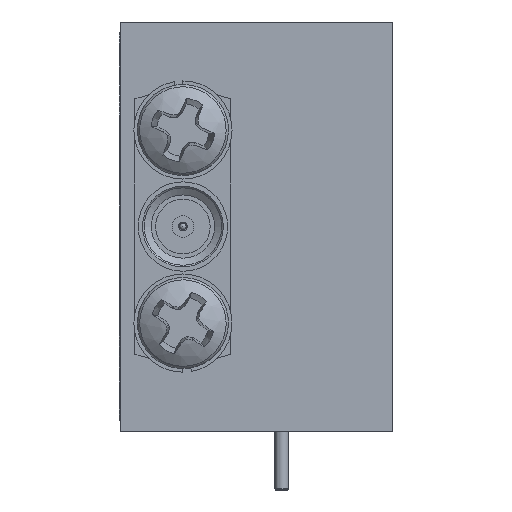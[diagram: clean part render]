
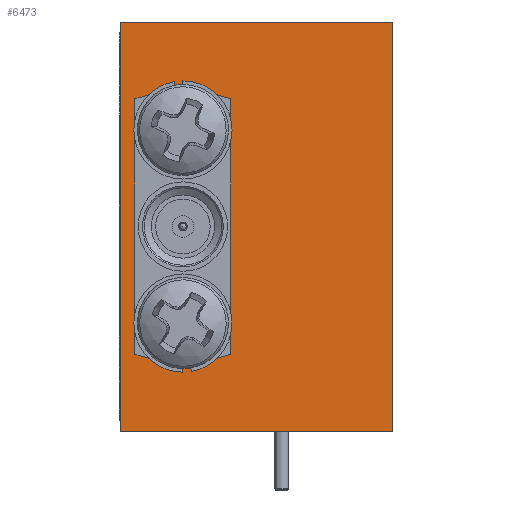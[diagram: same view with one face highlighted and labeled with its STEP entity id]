
A CAD part, left-side view. The second image highlights one B-rep face of the part: STEP entity #6473.
In plain terms, the highlighted planar face has unit normal (-1, 0, 0).
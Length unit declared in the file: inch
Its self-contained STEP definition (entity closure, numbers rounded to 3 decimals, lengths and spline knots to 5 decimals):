
#319 = EDGE_CURVE ( 'NONE', #17286, #27132, #17674, .T. ) ;
#729 = EDGE_LOOP ( 'NONE', ( #11300 ) ) ;
#800 = DIRECTION ( 'NONE',  ( 0., 0., 1. ) ) ;
#1131 = VECTOR ( 'NONE', #14091, 39.37008 ) ;
#1619 = DIRECTION ( 'NONE',  ( 0., -1., 0. ) ) ;
#2655 = VECTOR ( 'NONE', #800, 39.37008 ) ;
#2849 = EDGE_LOOP ( 'NONE', ( #6781 ) ) ;
#3548 = VERTEX_POINT ( 'NONE', #7317 ) ;
#3602 = AXIS2_PLACEMENT_3D ( 'NONE', #35756, #8922, #24015 ) ;
#3622 = CIRCLE ( 'NONE', #10355, 0.05 ) ;
#5473 = CARTESIAN_POINT ( 'NONE',  ( 37.35386, 41.08401, 39.5476 ) ) ;
#5575 = PLANE ( 'NONE',  #19173 ) ;
#6255 = EDGE_CURVE ( 'NONE', #17286, #7539, #15601, .T. ) ;
#6473 = ADVANCED_FACE ( 'NONE', ( #37066, #33994, #16487, #34170 ), #5575, .F. ) ;
#6781 = ORIENTED_EDGE ( 'NONE', *, *, #13248, .F. ) ;
#7317 = CARTESIAN_POINT ( 'NONE',  ( 37.35386, 40.58401, 39.5476 ) ) ;
#7539 = VERTEX_POINT ( 'NONE', #27774 ) ;
#8922 = DIRECTION ( 'NONE',  ( -1., 0., 0. ) ) ;
#9284 = EDGE_LOOP ( 'NONE', ( #11467 ) ) ;
#10029 = CARTESIAN_POINT ( 'NONE',  ( 37.35386, 41.08401, 38.7976 ) ) ;
#10355 = AXIS2_PLACEMENT_3D ( 'NONE', #28144, #31434, #34902 ) ;
#10740 = VERTEX_POINT ( 'NONE', #36456 ) ;
#10937 = AXIS2_PLACEMENT_3D ( 'NONE', #25268, #11131, #22994 ) ;
#11131 = DIRECTION ( 'NONE',  ( -1., 0., 0. ) ) ;
#11300 = ORIENTED_EDGE ( 'NONE', *, *, #13251, .F. ) ;
#11467 = ORIENTED_EDGE ( 'NONE', *, *, #13074, .F. ) ;
#12332 = ORIENTED_EDGE ( 'NONE', *, *, #6255, .T. ) ;
#12855 = EDGE_CURVE ( 'NONE', #27132, #3548, #30971, .T. ) ;
#13031 = CARTESIAN_POINT ( 'NONE',  ( 37.35386, 40.96901, 39.3926 ) ) ;
#13074 = EDGE_CURVE ( 'NONE', #24485, #24485, #36670, .T. ) ;
#13248 = EDGE_CURVE ( 'NONE', #28122, #28122, #22563, .T. ) ;
#13251 = EDGE_CURVE ( 'NONE', #10740, #10740, #3622, .T. ) ;
#13442 = DIRECTION ( 'NONE',  ( 0., 0., -1. ) ) ;
#14091 = DIRECTION ( 'NONE',  ( 0., -1., 0. ) ) ;
#15601 = LINE ( 'NONE', #10029, #35094 ) ;
#16487 = FACE_BOUND ( 'NONE', #9284, .T. ) ;
#17210 = DIRECTION ( 'NONE',  ( 1., 0., 0. ) ) ;
#17286 = VERTEX_POINT ( 'NONE', #36759 ) ;
#17674 = LINE ( 'NONE', #23803, #2655 ) ;
#18048 = VECTOR ( 'NONE', #32809, 39.37008 ) ;
#19173 = AXIS2_PLACEMENT_3D ( 'NONE', #22615, #17210, #13442 ) ;
#20541 = EDGE_CURVE ( 'NONE', #7539, #3548, #32419, .T. ) ;
#22563 = CIRCLE ( 'NONE', #10937, 0.043 ) ;
#22615 = CARTESIAN_POINT ( 'NONE',  ( 37.35386, 41.08401, 38.7976 ) ) ;
#22994 = DIRECTION ( 'NONE',  ( 0., 0., 1. ) ) ;
#23803 = CARTESIAN_POINT ( 'NONE',  ( 37.35386, 41.08401, 38.7976 ) ) ;
#24015 = DIRECTION ( 'NONE',  ( 0., 0., 1. ) ) ;
#24321 = CARTESIAN_POINT ( 'NONE',  ( 37.35386, 40.58401, 38.7976 ) ) ;
#24485 = VERTEX_POINT ( 'NONE', #13031 ) ;
#25249 = CARTESIAN_POINT ( 'NONE',  ( 37.35386, 40.96901, 39.0386 ) ) ;
#25268 = CARTESIAN_POINT ( 'NONE',  ( 37.35386, 40.96901, 38.9956 ) ) ;
#27132 = VERTEX_POINT ( 'NONE', #5473 ) ;
#27224 = ORIENTED_EDGE ( 'NONE', *, *, #319, .F. ) ;
#27774 = CARTESIAN_POINT ( 'NONE',  ( 37.35386, 40.58401, 38.7976 ) ) ;
#28122 = VERTEX_POINT ( 'NONE', #25249 ) ;
#28144 = CARTESIAN_POINT ( 'NONE',  ( 37.35386, 40.96901, 39.1726 ) ) ;
#30390 = ORIENTED_EDGE ( 'NONE', *, *, #20541, .T. ) ;
#30971 = LINE ( 'NONE', #37159, #1131 ) ;
#31434 = DIRECTION ( 'NONE',  ( -1., 0., 0. ) ) ;
#32419 = LINE ( 'NONE', #24321, #18048 ) ;
#32809 = DIRECTION ( 'NONE',  ( 0., 0., 1. ) ) ;
#33994 = FACE_BOUND ( 'NONE', #2849, .T. ) ;
#34170 = FACE_OUTER_BOUND ( 'NONE', #36453, .T. ) ;
#34902 = DIRECTION ( 'NONE',  ( 0., 0., 1. ) ) ;
#35094 = VECTOR ( 'NONE', #1619, 39.37008 ) ;
#35756 = CARTESIAN_POINT ( 'NONE',  ( 37.35386, 40.96901, 39.3496 ) ) ;
#36453 = EDGE_LOOP ( 'NONE', ( #30390, #36755, #27224, #12332 ) ) ;
#36456 = CARTESIAN_POINT ( 'NONE',  ( 37.35386, 40.96901, 39.2226 ) ) ;
#36670 = CIRCLE ( 'NONE', #3602, 0.043 ) ;
#36755 = ORIENTED_EDGE ( 'NONE', *, *, #12855, .F. ) ;
#36759 = CARTESIAN_POINT ( 'NONE',  ( 37.35386, 41.08401, 38.7976 ) ) ;
#37066 = FACE_BOUND ( 'NONE', #729, .T. ) ;
#37159 = CARTESIAN_POINT ( 'NONE',  ( 37.35386, 41.08401, 39.5476 ) ) ;
